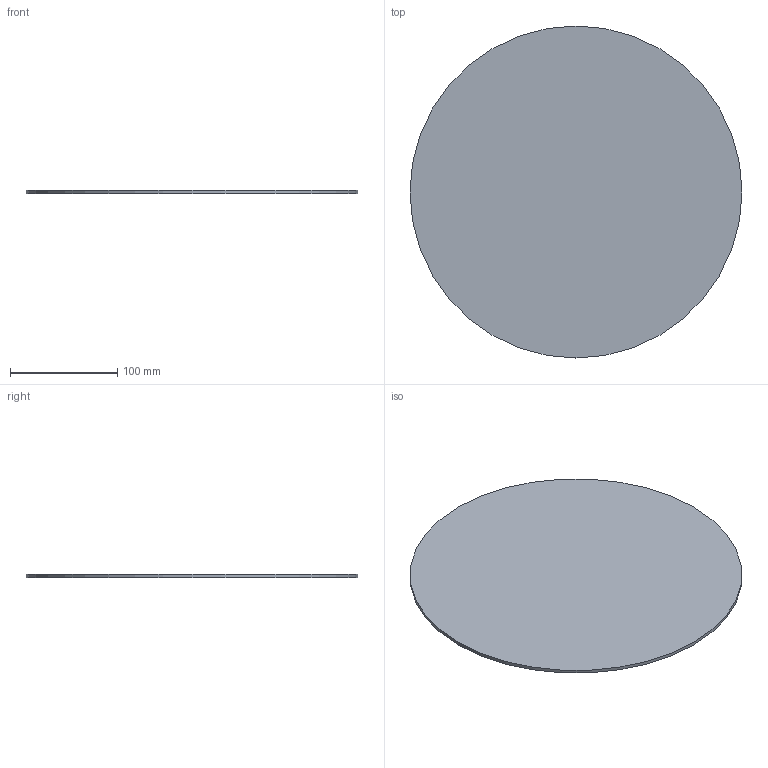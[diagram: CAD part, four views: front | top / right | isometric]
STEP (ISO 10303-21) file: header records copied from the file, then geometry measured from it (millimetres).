
FILE_DESCRIPTION(('Open CASCADE Model'),'2;1');
FILE_NAME('Open CASCADE Shape Model','2026-10-04T02:31:38',('Author'),( 'Open CASCADE'),'Open CASCADE STEP processor 8.0','Open CASCADE 8.0' ,'Unknown');
FILE_SCHEMA(('AUTOMOTIVE_DESIGN { 1 0 10303 214 1 1 1 1 }'));
Length unit declared in the file: millimetre
Products named in the file (1): Open CASCADE STEP translator 8.0 122
Bounding box: 310 x 310 x 3 mm (x, y, z)
Volume: 226430.3 mm3; surface area: 153875.2 mm2
Topology: 1 solids, 1 shells, 3 faces, 3 edges, 2 vertices
Faces by surface type: plane 2, cylinder 1
Full cylindrical faces by diameter (mm): 310 x1
Entity records: 108 total; most frequent: DIRECTION 19, CARTESIAN_POINT 15, AXIS2_PLACEMENT_3D 6, ORIENTED_EDGE 6, PCURVE 6, DEFINITIONAL_REPRESENTATION 6, LINE 5, VECTOR 5
